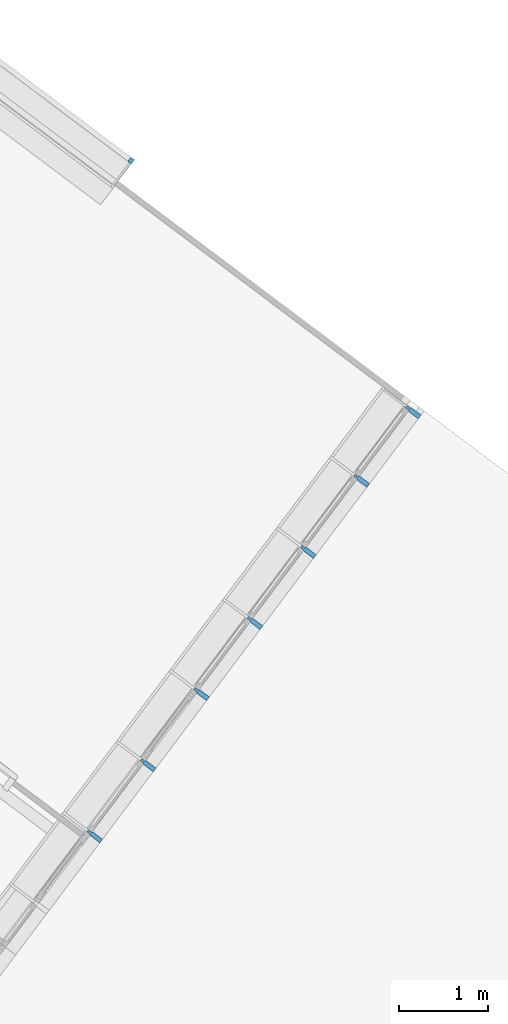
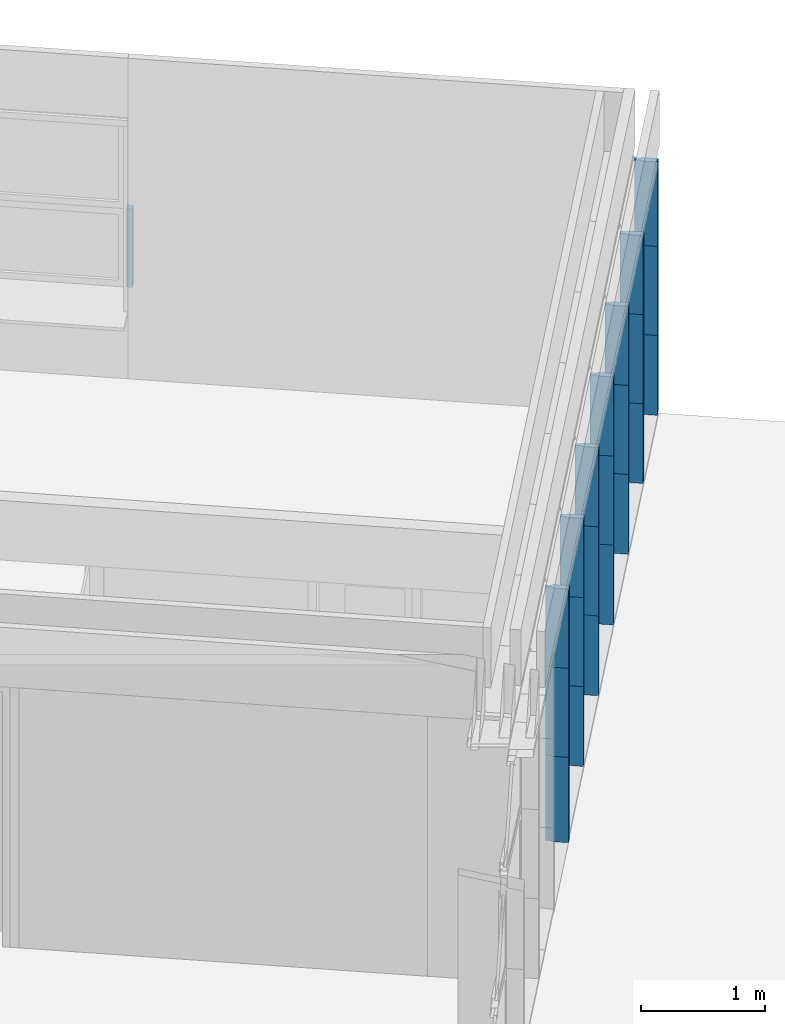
# One storey, part 108 of 243: 22 members, 2 elements without a shape of their own.
"""IFC2X3 building model written with IfcOpenShell, lengths in metres."""

from ifc_helpers import new_model, entity, si_unit, converted_unit, derived_unit, direction, frame, frame_2d, origin, place, context, subcontext, project, spatial, polyline, rectangle, outline, extrude, source, transform, mapped, material, type_object, type_shapes, element, aggregate, save


model = new_model("IFC2X3")

# Units and contexts
model_context = context("Model", 3, precision=1e-05, world=origin(), true_north=direction((6.123031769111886e-17, 1.0)))
body_context = subcontext(model_context, "Body", "Model", "MODEL_VIEW")
ifc_project = project(units=[si_unit("LENGTHUNIT", "METRE"), si_unit("AREAUNIT", "SQUARE_METRE"), si_unit("VOLUMEUNIT", "CUBIC_METRE"), converted_unit("PLANEANGLEUNIT", "DEGREE", entity("IfcRatioMeasure", 0.017453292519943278), si_unit("PLANEANGLEUNIT", "RADIAN"), dimensions=[0, 0, 0, 0, 0, 0, 0]), si_unit("MASSUNIT", "GRAM", prefix="KILO"), derived_unit("MASSDENSITYUNIT", [(si_unit("MASSUNIT", "GRAM", prefix="KILO"), 1), (si_unit("LENGTHUNIT", "METRE"), -3)]), derived_unit("IONCONCENTRATIONUNIT", [(si_unit("MASSUNIT", "GRAM", prefix="KILO"), 1), (si_unit("LENGTHUNIT", "METRE"), -3)]), derived_unit("MOMENTOFINERTIAUNIT", [(si_unit("LENGTHUNIT", "METRE"), 4)]), si_unit("TIMEUNIT", "SECOND"), si_unit("FREQUENCYUNIT", "HERTZ"), si_unit("THERMODYNAMICTEMPERATUREUNIT", "DEGREE_CELSIUS"), derived_unit("THERMALTRANSMITTANCEUNIT", [(si_unit("MASSUNIT", "GRAM", prefix="KILO"), 1), (si_unit("THERMODYNAMICTEMPERATUREUNIT", "KELVIN"), -1), (si_unit("TIMEUNIT", "SECOND"), -3)]), derived_unit("THERMALCONDUCTANCEUNIT", [(si_unit("MASSUNIT", "GRAM", prefix="KILO"), 1), (si_unit("THERMODYNAMICTEMPERATUREUNIT", "KELVIN"), -1), (si_unit("TIMEUNIT", "SECOND"), -3), (si_unit("LENGTHUNIT", "METRE"), 1)]), derived_unit("VOLUMETRICFLOWRATEUNIT", [(si_unit("LENGTHUNIT", "METRE"), 3), (si_unit("TIMEUNIT", "SECOND"), -1)]), derived_unit("MASSFLOWRATEUNIT", [(si_unit("MASSUNIT", "GRAM", prefix="KILO"), 1), (si_unit("TIMEUNIT", "SECOND"), -1)]), derived_unit("ROTATIONALFREQUENCYUNIT", [(si_unit("TIMEUNIT", "SECOND"), -1)]), si_unit("ELECTRICCURRENTUNIT", "AMPERE"), si_unit("ELECTRICVOLTAGEUNIT", "VOLT"), si_unit("POWERUNIT", "WATT"), si_unit("FORCEUNIT", "NEWTON", prefix="KILO"), si_unit("ILLUMINANCEUNIT", "LUX"), si_unit("LUMINOUSFLUXUNIT", "LUMEN"), si_unit("LUMINOUSINTENSITYUNIT", "CANDELA"), derived_unit("USERDEFINED", [(si_unit("MASSUNIT", "GRAM", prefix="KILO"), -1), (si_unit("LENGTHUNIT", "METRE"), -2), (si_unit("TIMEUNIT", "SECOND"), 3), (si_unit("LUMINOUSFLUXUNIT", "LUMEN"), 1)]), derived_unit("USERDEFINED", [(si_unit("MASSUNIT", "GRAM", prefix="KILO"), 1), (si_unit("TIMEUNIT", "SECOND"), -3), (si_unit("LENGTHUNIT", "METRE"), 3), (si_unit("ELECTRICCURRENTUNIT", "AMPERE"), -2)]), derived_unit("SOUNDPOWERUNIT", [(si_unit("MASSUNIT", "GRAM", prefix="KILO"), 1), (si_unit("TIMEUNIT", "SECOND"), -3), (si_unit("LENGTHUNIT", "METRE"), 2)]), derived_unit("SOUNDPRESSUREUNIT", [(si_unit("MASSUNIT", "GRAM", prefix="KILO"), 1), (si_unit("LENGTHUNIT", "METRE"), -1), (si_unit("TIMEUNIT", "SECOND"), -2)]), derived_unit("LINEARVELOCITYUNIT", [(si_unit("LENGTHUNIT", "METRE"), 1), (si_unit("TIMEUNIT", "SECOND"), -1)]), si_unit("PRESSUREUNIT", "PASCAL"), derived_unit("USERDEFINED", [(si_unit("MASSUNIT", "GRAM", prefix="KILO"), 1), (si_unit("LENGTHUNIT", "METRE"), -2), (si_unit("TIMEUNIT", "SECOND"), -2)]), derived_unit("LINEARFORCEUNIT", [(si_unit("MASSUNIT", "GRAM", prefix="KILO"), 1), (si_unit("TIMEUNIT", "SECOND"), -2)]), derived_unit("PLANARFORCEUNIT", [(si_unit("MASSUNIT", "GRAM", prefix="KILO"), 1), (si_unit("LENGTHUNIT", "METRE"), -1), (si_unit("TIMEUNIT", "SECOND"), -2)]), derived_unit("SPECIFICHEATCAPACITYUNIT", [(si_unit("THERMODYNAMICTEMPERATUREUNIT", "KELVIN"), -1), (si_unit("LENGTHUNIT", "METRE"), 2), (si_unit("TIMEUNIT", "SECOND"), -2)]), derived_unit("HEATINGVALUEUNIT", [(si_unit("LENGTHUNIT", "METRE"), 2), (si_unit("TIMEUNIT", "SECOND"), -2)]), derived_unit("VAPORPERMEABILITYUNIT", [(si_unit("LENGTHUNIT", "METRE"), -1), (si_unit("TIMEUNIT", "SECOND"), 1)]), derived_unit("DYNAMICVISCOSITYUNIT", [(si_unit("MASSUNIT", "GRAM", prefix="KILO"), 1), (si_unit("TIMEUNIT", "SECOND"), -1), (si_unit("LENGTHUNIT", "METRE"), -1)]), derived_unit("THERMALEXPANSIONCOEFFICIENTUNIT", [(si_unit("THERMODYNAMICTEMPERATUREUNIT", "KELVIN"), -1)]), derived_unit("MODULUSOFELASTICITYUNIT", [(si_unit("MASSUNIT", "GRAM", prefix="KILO"), 1), (si_unit("LENGTHUNIT", "METRE"), -1), (si_unit("TIMEUNIT", "SECOND"), -2)]), derived_unit("ISOTHERMALMOISTURECAPACITYUNIT", [(si_unit("LENGTHUNIT", "METRE"), 3), (si_unit("MASSUNIT", "GRAM", prefix="KILO"), -1)]), derived_unit("MOISTUREDIFFUSIVITYUNIT", [(si_unit("TIMEUNIT", "SECOND"), -1), (si_unit("LENGTHUNIT", "METRE"), 2)])], contexts=[model_context])

# Site, building, storey
site_placement = place(None, frame((0.0, 0.0, 235.0), z_axis=(0.0, 0.0, 1.0), x_axis=(-0.7996477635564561, 0.6004693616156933, 0.0)))
site = spatial("IfcSite", under=ifc_project, at=site_placement, Name="Default", CompositionType="ELEMENT")
building_placement = place(site_placement, origin())
building = spatial("IfcBuilding", under=site, at=building_placement, CompositionType="ELEMENT")
storey_placement = place(building_placement, origin())
storey = spatial("IfcBuildingStorey", under=building, at=storey_placement, Name="P0- Escola", CompositionType="ELEMENT", Elevation=0.0)

# Curtain wall, members
curtain_wall_type_1 = type_object("IfcCurtainWallType", Name="Muro cortina:MC- EXT- MC2", PredefinedType="NOTDEFINED")
curtain_wall_1_placement = place(storey_placement, origin())
curtain_wall_1 = element("IfcCurtainWall", 1, at=curtain_wall_1_placement, inside=storey, type_object=curtain_wall_type_1, Name="Muro cortina:MC- EXT- MC2", ObjectType="Muro cortina:MC- EXT- MC2")
ifc_material = material(Name="_Alumini- T1- Perfil")
member_type_1 = type_object("IfcMemberType", Name="Montante rectangular:MC- Alu- 140x52,5 cm- Fa patis- Centre", PredefinedType="MULLION", material=ifc_material)
shared_shape_1 = source(origin(), body_context, "Body", "SweptSolid", [
    extrude(outline(polyline([(-0.11699999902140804, -0.026250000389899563), (0.021999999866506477, -0.026250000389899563), (0.021999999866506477, -0.015000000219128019), (0.07299999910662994, -0.015000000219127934), (0.07299999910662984, 0.015000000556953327), (0.02200000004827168, 0.015000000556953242), (0.02200000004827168, 0.026250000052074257), (-0.11699999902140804, 0.026250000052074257), (-0.11699999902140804, -0.026250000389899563)])), frame((-0.026250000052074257, 0.022999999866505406, -0.7849999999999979), z_axis=(0.0, 0.0, 1.0), x_axis=(0.0, -1.0, 0.0)), (0.0, 0.0, 1.0), 0.7849999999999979),
])
type_shapes(member_type_1, [shared_shape_1])
member_1_placement = place(curtain_wall_1_placement, frame((5.885147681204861, -41.98018994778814, 0.035000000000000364), z_axis=(0.0, 0.0, -1.0), x_axis=(0.0, -1.0, 0.0)))
member_1 = element("IfcMember", 2, at=member_1_placement, type_object=member_type_1, material=ifc_material, Name="Montante rectangular:MC- Alu- 140x52,5 cm- Fa patis- Centre", ObjectType="Montante rectangular:MC- Alu- 140x52,5 cm- Fa patis- Centre", context=body_context, shape_type="MappedRepresentation", body=[
    mapped(shared_shape_1, transform((0.0, 0.0, 0.0), scale=1.0)),
])
member_type_2 = type_object("IfcMemberType", Name="Montante rectangular:MC- Alu- 140x52,5 cm- Fa patis- Centre", PredefinedType="MULLION", material=ifc_material)
shared_shape_2 = source(origin(), body_context, "Body", "SweptSolid", [
    extrude(outline(polyline([(-0.11699999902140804, -0.026250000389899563), (0.021999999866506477, -0.026250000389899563), (0.021999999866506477, -0.01500000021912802), (0.07299999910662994, -0.01500000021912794), (0.07299999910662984, 0.015000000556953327), (0.02200000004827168, 0.015000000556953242), (0.02200000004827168, 0.026250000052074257), (-0.11699999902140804, 0.026250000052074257), (-0.11699999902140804, -0.026250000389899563)])), frame((0.0, 0.022999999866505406, -0.8400000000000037), z_axis=(0.0, 0.0, 1.0), x_axis=(0.0, -1.0, 0.0)), (0.0, 0.0, 1.0), 0.8400000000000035),
])
type_shapes(member_type_2, [shared_shape_2])
member_2_placement = place(curtain_wall_1_placement, frame((5.885147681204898, -35.99019175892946, -0.02), z_axis=(0.0, 0.0, -1.0), x_axis=(0.0, -1.0, 0.0)))
member_2 = element("IfcMember", 3, at=member_2_placement, type_object=member_type_2, material=ifc_material, Name="Montante rectangular:MC- Alu- 140x52,5 cm- Fa patis- Centre", ObjectType="Montante rectangular:MC- Alu- 140x52,5 cm- Fa patis- Centre", context=body_context, shape_type="MappedRepresentation", body=[
    mapped(shared_shape_2, transform((0.0, 0.0, 0.0), scale=1.0)),
])
member_type_3 = type_object("IfcMemberType", Name="Montante rectangular:MC- Alu- 140x52,5 cm- Fa patis- Centre", PredefinedType="MULLION", material=ifc_material)
shared_shape_3 = source(origin(), body_context, "Body", "SweptSolid", [
    extrude(outline(polyline([(-0.11699999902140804, -0.026250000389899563), (0.021999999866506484, -0.026250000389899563), (0.021999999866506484, -0.01500000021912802), (0.07299999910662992, -0.01500000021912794), (0.07299999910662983, 0.015000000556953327), (0.022000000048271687, 0.015000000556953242), (0.022000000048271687, 0.026250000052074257), (-0.11699999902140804, 0.026250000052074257), (-0.11699999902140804, -0.026250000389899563)])), frame((0.0, 0.022999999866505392, -0.7850000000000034), z_axis=(0.0, 0.0, 1.0), x_axis=(0.0, -1.0, 0.0)), (0.0, 0.0, 1.0), 0.7850000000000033),
])
type_shapes(member_type_3, [shared_shape_3])
member_3_placement = place(curtain_wall_1_placement, frame((5.8851476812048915, -36.99019175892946, 0.035000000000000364), z_axis=(0.0, 0.0, -1.0), x_axis=(0.0, -1.0, 0.0)))
member_3 = element("IfcMember", 4, at=member_3_placement, type_object=member_type_3, material=ifc_material, Name="Montante rectangular:MC- Alu- 140x52,5 cm- Fa patis- Centre", ObjectType="Montante rectangular:MC- Alu- 140x52,5 cm- Fa patis- Centre", context=body_context, shape_type="MappedRepresentation", body=[
    mapped(shared_shape_3, transform((0.0, 0.0, 0.0), scale=1.0)),
])
member_4_placement = place(curtain_wall_1_placement, frame((5.885147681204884, -37.990191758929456, 0.035000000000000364), z_axis=(0.0, 0.0, -1.0), x_axis=(0.0, -1.0, 0.0)))
member_4 = element("IfcMember", 5, at=member_4_placement, type_object=member_type_3, material=ifc_material, Name="Montante rectangular:MC- Alu- 140x52,5 cm- Fa patis- Centre", ObjectType="Montante rectangular:MC- Alu- 140x52,5 cm- Fa patis- Centre", context=body_context, shape_type="MappedRepresentation", body=[
    mapped(shared_shape_3, transform((0.0, 0.0, 0.0), scale=1.0)),
])
member_5_placement = place(curtain_wall_1_placement, frame((5.885147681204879, -38.990191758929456, 0.035000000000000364), z_axis=(0.0, 0.0, -1.0), x_axis=(0.0, -1.0, 0.0)))
member_5 = element("IfcMember", 6, at=member_5_placement, type_object=member_type_3, material=ifc_material, Name="Montante rectangular:MC- Alu- 140x52,5 cm- Fa patis- Centre", ObjectType="Montante rectangular:MC- Alu- 140x52,5 cm- Fa patis- Centre", context=body_context, shape_type="MappedRepresentation", body=[
    mapped(shared_shape_3, transform((0.0, 0.0, 0.0), scale=1.0)),
])
member_6_placement = place(curtain_wall_1_placement, frame((5.885147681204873, -39.99019175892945, 0.035000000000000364), z_axis=(0.0, 0.0, -1.0), x_axis=(0.0, -1.0, 0.0)))
member_6 = element("IfcMember", 7, at=member_6_placement, type_object=member_type_3, material=ifc_material, Name="Montante rectangular:MC- Alu- 140x52,5 cm- Fa patis- Centre", ObjectType="Montante rectangular:MC- Alu- 140x52,5 cm- Fa patis- Centre", context=body_context, shape_type="MappedRepresentation", body=[
    mapped(shared_shape_3, transform((0.0, 0.0, 0.0), scale=1.0)),
])
member_7_placement = place(curtain_wall_1_placement, frame((5.8851476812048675, -40.99019175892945, 0.035000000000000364), z_axis=(0.0, 0.0, -1.0), x_axis=(0.0, -1.0, 0.0)))
member_7 = element("IfcMember", 8, at=member_7_placement, type_object=member_type_3, material=ifc_material, Name="Montante rectangular:MC- Alu- 140x52,5 cm- Fa patis- Centre", ObjectType="Montante rectangular:MC- Alu- 140x52,5 cm- Fa patis- Centre", context=body_context, shape_type="MappedRepresentation", body=[
    mapped(shared_shape_3, transform((0.0, 0.0, 0.0), scale=1.0)),
])
member_type_4 = type_object("IfcMemberType", Name="Montante rectangular:MC- Alu- 140x52,5 cm- Fa patis- Centre", PredefinedType="MULLION", material=ifc_material)
shared_shape_4 = source(origin(), body_context, "Body", "SweptSolid", [
    extrude(outline(polyline([(-0.11699999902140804, -0.026250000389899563), (0.021999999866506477, -0.026250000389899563), (0.021999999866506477, -0.015000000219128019), (0.07299999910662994, -0.015000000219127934), (0.07299999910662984, 0.015000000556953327), (0.02200000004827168, 0.015000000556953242), (0.02200000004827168, 0.026250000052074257), (-0.11699999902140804, 0.026250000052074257), (-0.11699999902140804, -0.026250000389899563)])), frame((-0.026250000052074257, 0.022999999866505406, -0.8299999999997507), z_axis=(0.0, 0.0, 1.0), x_axis=(0.0, -1.0, 0.0)), (0.0, 0.0, 1.0), 0.8299999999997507),
])
type_shapes(member_type_4, [shared_shape_4])
member_8_placement = place(curtain_wall_1_placement, frame((5.885147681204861, -41.98018994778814, 1.6950000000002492), z_axis=(0.0, 0.0, -1.0), x_axis=(0.0, -1.0, 0.0)))
member_8 = element("IfcMember", 9, at=member_8_placement, type_object=member_type_4, material=ifc_material, Name="Montante rectangular:MC- Alu- 140x52,5 cm- Fa patis- Centre", ObjectType="Montante rectangular:MC- Alu- 140x52,5 cm- Fa patis- Centre", context=body_context, shape_type="MappedRepresentation", body=[
    mapped(shared_shape_4, transform((0.0, 0.0, 0.0), scale=1.0)),
])
member_type_5 = type_object("IfcMemberType", Name="Montante rectangular:MC- Alu- 140x52,5 cm- Fa patis- Centre", PredefinedType="MULLION", material=ifc_material)
shared_shape_5 = source(origin(), body_context, "Body", "SweptSolid", [
    extrude(outline(polyline([(-0.11699999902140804, -0.026250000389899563), (0.021999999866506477, -0.026250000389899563), (0.021999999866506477, -0.01500000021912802), (0.07299999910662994, -0.01500000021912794), (0.07299999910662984, 0.015000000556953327), (0.02200000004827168, 0.015000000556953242), (0.02200000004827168, 0.026250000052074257), (-0.11699999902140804, 0.026250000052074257), (-0.11699999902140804, -0.026250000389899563)])), frame((0.0, 0.022999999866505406, -0.7774999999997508), z_axis=(0.0, 0.0, 1.0), x_axis=(0.0, -1.0, 0.0)), (0.0, 0.0, 1.0), 0.777499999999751),
])
type_shapes(member_type_5, [shared_shape_5])
member_9_placement = place(curtain_wall_1_placement, frame((5.885147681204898, -35.99019175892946, 1.6950000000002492), z_axis=(0.0, 0.0, -1.0), x_axis=(0.0, -1.0, 0.0)))
member_9 = element("IfcMember", 10, at=member_9_placement, type_object=member_type_5, material=ifc_material, Name="Montante rectangular:MC- Alu- 140x52,5 cm- Fa patis- Centre", ObjectType="Montante rectangular:MC- Alu- 140x52,5 cm- Fa patis- Centre", context=body_context, shape_type="MappedRepresentation", body=[
    mapped(shared_shape_5, transform((0.0, 0.0, 0.0), scale=1.0)),
])
member_10_placement = place(curtain_wall_1_placement, frame((5.8851476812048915, -36.99019175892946, 1.6950000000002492), z_axis=(0.0, 0.0, -1.0), x_axis=(0.0, -1.0, 0.0)))
member_10 = element("IfcMember", 11, at=member_10_placement, type_object=member_type_5, material=ifc_material, Name="Montante rectangular:MC- Alu- 140x52,5 cm- Fa patis- Centre", ObjectType="Montante rectangular:MC- Alu- 140x52,5 cm- Fa patis- Centre", context=body_context, shape_type="MappedRepresentation", body=[
    mapped(shared_shape_5, transform((0.0, 0.0, 0.0), scale=1.0)),
])
member_11_placement = place(curtain_wall_1_placement, frame((5.885147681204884, -37.990191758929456, 1.6950000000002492), z_axis=(0.0, 0.0, -1.0), x_axis=(0.0, -1.0, 0.0)))
member_11 = element("IfcMember", 12, at=member_11_placement, type_object=member_type_5, material=ifc_material, Name="Montante rectangular:MC- Alu- 140x52,5 cm- Fa patis- Centre", ObjectType="Montante rectangular:MC- Alu- 140x52,5 cm- Fa patis- Centre", context=body_context, shape_type="MappedRepresentation", body=[
    mapped(shared_shape_5, transform((0.0, 0.0, 0.0), scale=1.0)),
])
member_12_placement = place(curtain_wall_1_placement, frame((5.885147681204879, -38.990191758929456, 1.6950000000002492), z_axis=(0.0, 0.0, -1.0), x_axis=(0.0, -1.0, 0.0)))
member_12 = element("IfcMember", 13, at=member_12_placement, type_object=member_type_5, material=ifc_material, Name="Montante rectangular:MC- Alu- 140x52,5 cm- Fa patis- Centre", ObjectType="Montante rectangular:MC- Alu- 140x52,5 cm- Fa patis- Centre", context=body_context, shape_type="MappedRepresentation", body=[
    mapped(shared_shape_5, transform((0.0, 0.0, 0.0), scale=1.0)),
])
member_13_placement = place(curtain_wall_1_placement, frame((5.885147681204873, -39.99019175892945, 1.6950000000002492), z_axis=(0.0, 0.0, -1.0), x_axis=(0.0, -1.0, 0.0)))
member_13 = element("IfcMember", 14, at=member_13_placement, type_object=member_type_5, material=ifc_material, Name="Montante rectangular:MC- Alu- 140x52,5 cm- Fa patis- Centre", ObjectType="Montante rectangular:MC- Alu- 140x52,5 cm- Fa patis- Centre", context=body_context, shape_type="MappedRepresentation", body=[
    mapped(shared_shape_5, transform((0.0, 0.0, 0.0), scale=1.0)),
])
member_14_placement = place(curtain_wall_1_placement, frame((5.8851476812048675, -40.99019175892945, 1.6950000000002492), z_axis=(0.0, 0.0, -1.0), x_axis=(0.0, -1.0, 0.0)))
member_14 = element("IfcMember", 15, at=member_14_placement, type_object=member_type_5, material=ifc_material, Name="Montante rectangular:MC- Alu- 140x52,5 cm- Fa patis- Centre", ObjectType="Montante rectangular:MC- Alu- 140x52,5 cm- Fa patis- Centre", context=body_context, shape_type="MappedRepresentation", body=[
    mapped(shared_shape_5, transform((0.0, 0.0, 0.0), scale=1.0)),
])
member_type_6 = type_object("IfcMemberType", Name="Montante rectangular:MC- Alu- 140x52,5 cm- Fa patis- Centre", PredefinedType="MULLION", material=ifc_material)
shared_shape_6 = source(origin(), body_context, "Body", "SweptSolid", [
    extrude(outline(polyline([(-0.11699999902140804, -0.026250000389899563), (0.021999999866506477, -0.026250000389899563), (0.021999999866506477, -0.01500000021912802), (0.07299999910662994, -0.01500000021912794), (0.07299999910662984, 0.015000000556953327), (0.02200000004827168, 0.015000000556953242), (0.02200000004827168, 0.026250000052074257), (-0.11699999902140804, 0.026250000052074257), (-0.11699999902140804, -0.026250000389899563)])), frame((0.0, 0.022999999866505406, -0.8750000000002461), z_axis=(0.0, 0.0, 1.0), x_axis=(0.0, -1.0, 0.0)), (0.0, 0.0, 1.0), 0.8750000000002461),
])
type_shapes(member_type_6, [shared_shape_6])
member_15_placement = place(curtain_wall_1_placement, frame((5.885147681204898, -35.99019175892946, 0.8199999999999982), z_axis=(0.0, 0.0, -1.0), x_axis=(0.0, -1.0, 0.0)))
member_15 = element("IfcMember", 16, at=member_15_placement, type_object=member_type_6, material=ifc_material, Name="Montante rectangular:MC- Alu- 140x52,5 cm- Fa patis- Centre", ObjectType="Montante rectangular:MC- Alu- 140x52,5 cm- Fa patis- Centre", context=body_context, shape_type="MappedRepresentation", body=[
    mapped(shared_shape_6, transform((0.0, 0.0, 0.0), scale=1.0)),
])
member_16_placement = place(curtain_wall_1_placement, frame((5.8851476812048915, -36.99019175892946, 0.8199999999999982), z_axis=(0.0, 0.0, -1.0), x_axis=(0.0, -1.0, 0.0)))
member_16 = element("IfcMember", 17, at=member_16_placement, type_object=member_type_6, material=ifc_material, Name="Montante rectangular:MC- Alu- 140x52,5 cm- Fa patis- Centre", ObjectType="Montante rectangular:MC- Alu- 140x52,5 cm- Fa patis- Centre", context=body_context, shape_type="MappedRepresentation", body=[
    mapped(shared_shape_6, transform((0.0, 0.0, 0.0), scale=1.0)),
])
member_17_placement = place(curtain_wall_1_placement, frame((5.885147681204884, -37.990191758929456, 0.8199999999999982), z_axis=(0.0, 0.0, -1.0), x_axis=(0.0, -1.0, 0.0)))
member_17 = element("IfcMember", 18, at=member_17_placement, type_object=member_type_6, material=ifc_material, Name="Montante rectangular:MC- Alu- 140x52,5 cm- Fa patis- Centre", ObjectType="Montante rectangular:MC- Alu- 140x52,5 cm- Fa patis- Centre", context=body_context, shape_type="MappedRepresentation", body=[
    mapped(shared_shape_6, transform((0.0, 0.0, 0.0), scale=1.0)),
])
member_18_placement = place(curtain_wall_1_placement, frame((5.885147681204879, -38.990191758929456, 0.8199999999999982), z_axis=(0.0, 0.0, -1.0), x_axis=(0.0, -1.0, 0.0)))
member_18 = element("IfcMember", 19, at=member_18_placement, type_object=member_type_6, material=ifc_material, Name="Montante rectangular:MC- Alu- 140x52,5 cm- Fa patis- Centre", ObjectType="Montante rectangular:MC- Alu- 140x52,5 cm- Fa patis- Centre", context=body_context, shape_type="MappedRepresentation", body=[
    mapped(shared_shape_6, transform((0.0, 0.0, 0.0), scale=1.0)),
])
member_19_placement = place(curtain_wall_1_placement, frame((5.885147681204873, -39.99019175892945, 0.8199999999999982), z_axis=(0.0, 0.0, -1.0), x_axis=(0.0, -1.0, 0.0)))
member_19 = element("IfcMember", 20, at=member_19_placement, type_object=member_type_6, material=ifc_material, Name="Montante rectangular:MC- Alu- 140x52,5 cm- Fa patis- Centre", ObjectType="Montante rectangular:MC- Alu- 140x52,5 cm- Fa patis- Centre", context=body_context, shape_type="MappedRepresentation", body=[
    mapped(shared_shape_6, transform((0.0, 0.0, 0.0), scale=1.0)),
])
member_20_placement = place(curtain_wall_1_placement, frame((5.8851476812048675, -40.99019175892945, 0.8199999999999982), z_axis=(0.0, 0.0, -1.0), x_axis=(0.0, -1.0, 0.0)))
member_20 = element("IfcMember", 21, at=member_20_placement, type_object=member_type_6, material=ifc_material, Name="Montante rectangular:MC- Alu- 140x52,5 cm- Fa patis- Centre", ObjectType="Montante rectangular:MC- Alu- 140x52,5 cm- Fa patis- Centre", context=body_context, shape_type="MappedRepresentation", body=[
    mapped(shared_shape_6, transform((0.0, 0.0, 0.0), scale=1.0)),
])
member_type_7 = type_object("IfcMemberType", Name="Montante rectangular:MC- Alu- 140x52,5 cm- Fa patis- Centre", PredefinedType="MULLION", material=ifc_material)
shared_shape_7 = source(origin(), body_context, "Body", "SweptSolid", [
    extrude(outline(polyline([(-0.11699999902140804, -0.026250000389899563), (0.021999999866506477, -0.026250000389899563), (0.021999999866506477, -0.015000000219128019), (0.07299999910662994, -0.015000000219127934), (0.07299999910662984, 0.015000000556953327), (0.02200000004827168, 0.015000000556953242), (0.02200000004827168, 0.026250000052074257), (-0.11699999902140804, 0.026250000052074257), (-0.11699999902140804, -0.026250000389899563)])), frame((-0.026250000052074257, 0.022999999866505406, -0.8750000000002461), z_axis=(0.0, 0.0, 1.0), x_axis=(0.0, -1.0, 0.0)), (0.0, 0.0, 1.0), 0.8750000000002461),
])
type_shapes(member_type_7, [shared_shape_7])
member_21_placement = place(curtain_wall_1_placement, frame((5.885147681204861, -41.98018994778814, 0.8199999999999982), z_axis=(0.0, 0.0, -1.0), x_axis=(0.0, -1.0, 0.0)))
member_21 = element("IfcMember", 22, at=member_21_placement, type_object=member_type_7, material=ifc_material, Name="Montante rectangular:MC- Alu- 140x52,5 cm- Fa patis- Centre", ObjectType="Montante rectangular:MC- Alu- 140x52,5 cm- Fa patis- Centre", context=body_context, shape_type="MappedRepresentation", body=[
    mapped(shared_shape_7, transform((0.0, 0.0, 0.0), scale=1.0)),
])
aggregate(curtain_wall_1, [member_1, member_2, member_3, member_4, member_5, member_6, member_7, member_8, member_9, member_10, member_11, member_12, member_13, member_14, member_21, member_15, member_16, member_17, member_18, member_19, member_20])

# Curtain wall, member
curtain_wall_type_2 = type_object("IfcCurtainWallType", Name="Muro cortina:MC- EXT- MC6", PredefinedType="NOTDEFINED")
curtain_wall_2_placement = place(storey_placement, origin())
curtain_wall_2 = element("IfcCurtainWall", 23, at=curtain_wall_2_placement, inside=storey, type_object=curtain_wall_type_2, Name="Muro cortina:MC- EXT- MC6", ObjectType="Muro cortina:MC- EXT- MC6")
member_type_8 = type_object("IfcMemberType", Name="Montante rectangular:MC- Alu- 50x60 cm- Fa pista- Centre", PredefinedType="MULLION", material=ifc_material)
shared_shape_8 = source(origin(), body_context, "Body", "SweptSolid", [
    extrude(rectangle(XDim=0.0600000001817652, YDim=0.05, at=frame_2d((-8.673617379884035e-18, 0.0), x_axis=(1.0, 0.0))), frame((-0.025, -0.030000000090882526, -0.7699999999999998), z_axis=(0.0, 0.0, 1.0), x_axis=(0.0, -1.0, 0.0)), (0.0, 0.0, 1.0), 0.7699999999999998),
])
type_shapes(member_type_8, [shared_shape_8])
member_22_placement = place(curtain_wall_2_placement, frame((10.045147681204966, -42.34019175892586, 1.455), z_axis=(0.0, 0.0, 1.0), x_axis=(-1.0, 0.0, 0.0)))
member_22 = element("IfcMember", 24, at=member_22_placement, type_object=member_type_8, material=ifc_material, Name="Montante rectangular:MC- Alu- 50x60 cm- Fa pista- Centre", ObjectType="Montante rectangular:MC- Alu- 50x60 cm- Fa pista- Centre", context=body_context, shape_type="MappedRepresentation", body=[
    mapped(shared_shape_8, transform((0.0, 0.0, 0.0), scale=1.0)),
])
aggregate(curtain_wall_2, [member_22])

save(model, "model.ifc")
